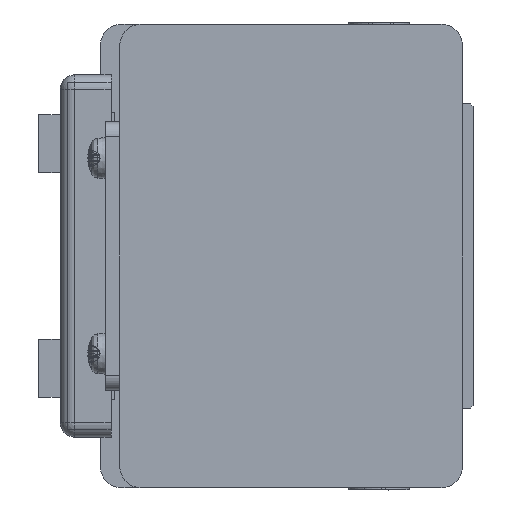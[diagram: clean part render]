
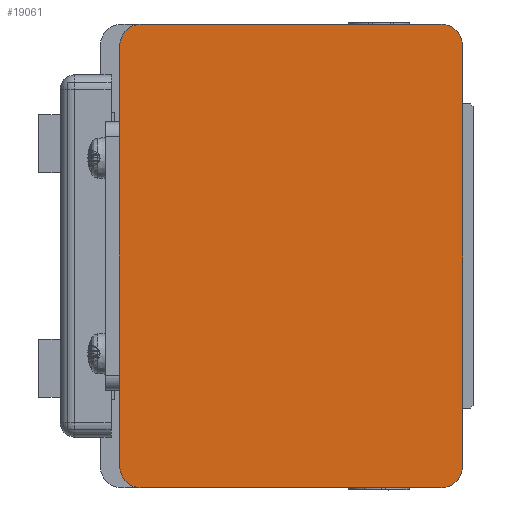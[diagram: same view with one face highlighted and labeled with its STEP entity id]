
A CAD part, left-side view. The second image highlights one B-rep face of the part: STEP entity #19061.
In plain terms, the highlighted planar face has unit normal (-1, 0, 0) as drawn and (0, 0, -1) by its records, which use the part's own axes.
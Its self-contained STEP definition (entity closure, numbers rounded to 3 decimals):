
#779=LINE('',#26963,#2431);
#794=LINE('',#27005,#2446);
#839=LINE('',#27114,#2491);
#861=LINE('',#27183,#2513);
#874=LINE('',#27218,#2526);
#875=LINE('',#27221,#2527);
#876=LINE('',#27222,#2528);
#877=LINE('',#27227,#2529);
#2431=VECTOR('',#22041,19.);
#2446=VECTOR('',#22074,41.3);
#2491=VECTOR('',#22163,41.3);
#2513=VECTOR('',#22223,19.);
#2526=VECTOR('',#22258,0.1);
#2527=VECTOR('',#22261,20.);
#2528=VECTOR('',#22262,0.1);
#2529=VECTOR('',#22267,58.);
#4240=PLANE('',#20315);
#5076=FACE_OUTER_BOUND('',#6204,.T.);
#6204=EDGE_LOOP('',(#12830,#12831,#12832,#12833,#12834,#12835,#12836,#12837,
#12838,#12839,#12840,#12841));
#7464=CIRCLE('',#20316,3.);
#7465=CIRCLE('',#20317,3.);
#7466=CIRCLE('',#20318,3.);
#7467=CIRCLE('',#20319,3.);
#8025=VERTEX_POINT('',#26960);
#8026=VERTEX_POINT('',#26962);
#8043=VERTEX_POINT('',#27002);
#8044=VERTEX_POINT('',#27004);
#8085=VERTEX_POINT('',#27111);
#8086=VERTEX_POINT('',#27113);
#8113=VERTEX_POINT('',#27180);
#8114=VERTEX_POINT('',#27182);
#8125=VERTEX_POINT('',#27216);
#8126=VERTEX_POINT('',#27220);
#8127=VERTEX_POINT('',#27224);
#8128=VERTEX_POINT('',#27226);
#9890=EDGE_CURVE('',#8026,#8025,#779,.T.);
#9911=EDGE_CURVE('',#8044,#8043,#794,.T.);
#9966=EDGE_CURVE('',#8086,#8085,#839,.T.);
#10000=EDGE_CURVE('',#8114,#8113,#861,.T.);
#10019=EDGE_CURVE('',#8125,#8025,#874,.T.);
#10020=EDGE_CURVE('',#8126,#8125,#875,.T.);
#10021=EDGE_CURVE('',#8114,#8126,#876,.T.);
#10022=EDGE_CURVE('',#8113,#8086,#7464,.T.);
#10023=EDGE_CURVE('',#8085,#8127,#7465,.T.);
#10024=EDGE_CURVE('',#8127,#8128,#877,.T.);
#10025=EDGE_CURVE('',#8128,#8044,#7466,.T.);
#10026=EDGE_CURVE('',#8043,#8026,#7467,.T.);
#12830=ORIENTED_EDGE('',*,*,#9890,.T.);
#12831=ORIENTED_EDGE('',*,*,#10019,.F.);
#12832=ORIENTED_EDGE('',*,*,#10020,.F.);
#12833=ORIENTED_EDGE('',*,*,#10021,.F.);
#12834=ORIENTED_EDGE('',*,*,#10000,.T.);
#12835=ORIENTED_EDGE('',*,*,#10022,.T.);
#12836=ORIENTED_EDGE('',*,*,#9966,.T.);
#12837=ORIENTED_EDGE('',*,*,#10023,.T.);
#12838=ORIENTED_EDGE('',*,*,#10024,.T.);
#12839=ORIENTED_EDGE('',*,*,#10025,.T.);
#12840=ORIENTED_EDGE('',*,*,#9911,.T.);
#12841=ORIENTED_EDGE('',*,*,#10026,.T.);
#19061=ADVANCED_FACE('',(#5076),#4240,.F.);
#20315=AXIS2_PLACEMENT_3D('',#27219,#22259,#22260);
#20316=AXIS2_PLACEMENT_3D('',#27223,#22263,#22264);
#20317=AXIS2_PLACEMENT_3D('',#27225,#22265,#22266);
#20318=AXIS2_PLACEMENT_3D('',#27228,#22268,#22269);
#20319=AXIS2_PLACEMENT_3D('',#27229,#22270,#22271);
#22041=DIRECTION('',(1.,0.,0.));
#22074=DIRECTION('',(0.,1.,0.));
#22163=DIRECTION('',(0.,-1.,0.));
#22223=DIRECTION('',(1.,0.,0.));
#22258=DIRECTION('',(0.,-1.,0.));
#22259=DIRECTION('center_axis',(0.,0.,1.));
#22260=DIRECTION('ref_axis',(1.,0.,0.));
#22261=DIRECTION('',(-1.,0.,0.));
#22262=DIRECTION('',(0.,1.,0.));
#22263=DIRECTION('center_axis',(0.,0.,-1.));
#22264=DIRECTION('ref_axis',(-1.,0.,0.));
#22265=DIRECTION('center_axis',(0.,0.,-1.));
#22266=DIRECTION('ref_axis',(0.,1.,0.));
#22267=DIRECTION('',(-1.,0.,0.));
#22268=DIRECTION('center_axis',(0.,0.,-1.));
#22269=DIRECTION('ref_axis',(1.,0.,0.));
#22270=DIRECTION('center_axis',(0.,0.,-1.));
#22271=DIRECTION('ref_axis',(0.,-1.,0.));
#26960=CARTESIAN_POINT('',(22.,48.8,-742.));
#26962=CARTESIAN_POINT('',(3.,48.8,-742.));
#26963=CARTESIAN_POINT('',(3.,48.8,-742.));
#27002=CARTESIAN_POINT('',(0.,45.8,-742.));
#27004=CARTESIAN_POINT('',(0.,4.5,-742.));
#27005=CARTESIAN_POINT('',(0.,4.5,-742.));
#27111=CARTESIAN_POINT('',(64.,4.5,-742.));
#27113=CARTESIAN_POINT('',(64.,45.8,-742.));
#27114=CARTESIAN_POINT('',(64.,45.8,-742.));
#27180=CARTESIAN_POINT('',(61.,48.8,-742.));
#27182=CARTESIAN_POINT('',(42.,48.8,-742.));
#27183=CARTESIAN_POINT('',(42.,48.8,-742.));
#27216=CARTESIAN_POINT('',(22.,48.9,-742.));
#27218=CARTESIAN_POINT('',(22.,48.9,-742.));
#27219=CARTESIAN_POINT('Origin',(32.,25.15,-742.));
#27220=CARTESIAN_POINT('',(42.,48.9,-742.));
#27221=CARTESIAN_POINT('',(42.,48.9,-742.));
#27222=CARTESIAN_POINT('',(42.,48.8,-742.));
#27223=CARTESIAN_POINT('Origin',(61.,45.8,-742.));
#27224=CARTESIAN_POINT('',(61.,1.5,-742.));
#27225=CARTESIAN_POINT('Origin',(61.,4.5,-742.));
#27226=CARTESIAN_POINT('',(3.,1.5,-742.));
#27227=CARTESIAN_POINT('',(61.,1.5,-742.));
#27228=CARTESIAN_POINT('Origin',(3.,4.5,-742.));
#27229=CARTESIAN_POINT('Origin',(3.,45.8,-742.));
